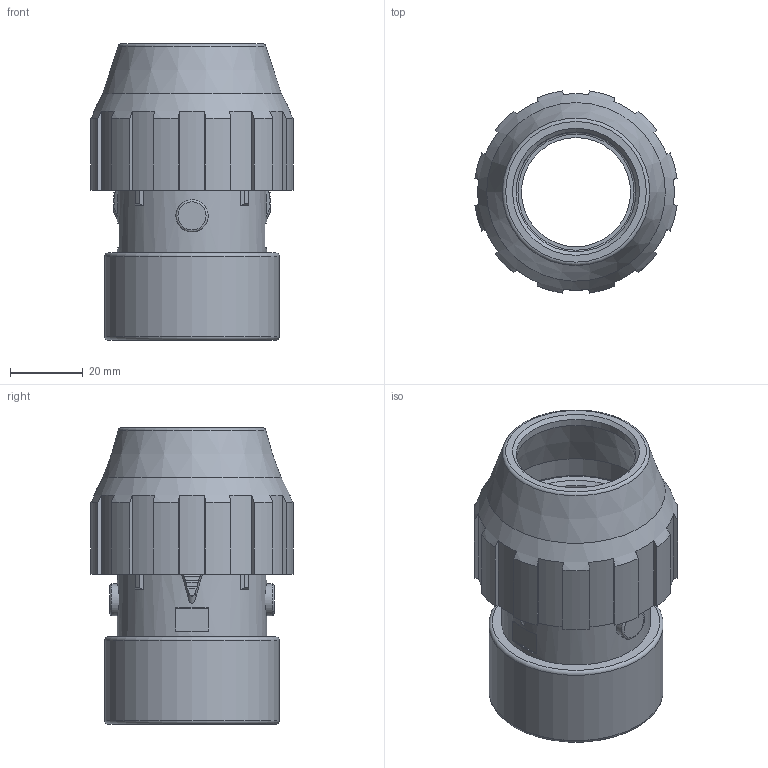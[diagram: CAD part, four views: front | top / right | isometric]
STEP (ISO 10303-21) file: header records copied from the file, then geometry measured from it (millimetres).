
FILE_DESCRIPTION( ( 'STEP AP214' ), '1' );
FILE_NAME( ' ', ' ', ( ' ' ), ( ' ' ), 'PSStep 11.0', 'VISI 17.0', ' ' );
FILE_SCHEMA( ( 'AUTOMOTIVE_DESIGN { 1 0 10303 214 1 1 1 1 }' ) );
Length unit declared in the file: millimetre
Products named in the file (6): 1; 2; 3; 4; 5; 6
Bounding box: 55.52 x 55.52 x 81.5 mm (x, y, z)
Volume: 59849.2 mm3; surface area: 45724.3 mm2
Topology: 6 solids, 6 shells, 183 faces, 472 edges, 312 vertices
Faces by surface type: plane 83, cylinder 71, torus 13, cone 8, bspline 8
Full cylindrical faces by diameter (mm): 8.842 x2, 30 x1, 32.9 x2, 38 x1, 39.352 x1, 41 x1, 42.31 x2, 44 x1, 46 x1, 48 x1, 50 x2
Entity records: 8564 total; most frequent: CARTESIAN_POINT 2665, DIRECTION 944, ORIENTED_EDGE 854, EDGE_CURVE 427, AXIS2_PLACEMENT_3D 382, VERTEX_POINT 299, EDGE_LOOP 234, FACE_OUTER_BOUND 207
